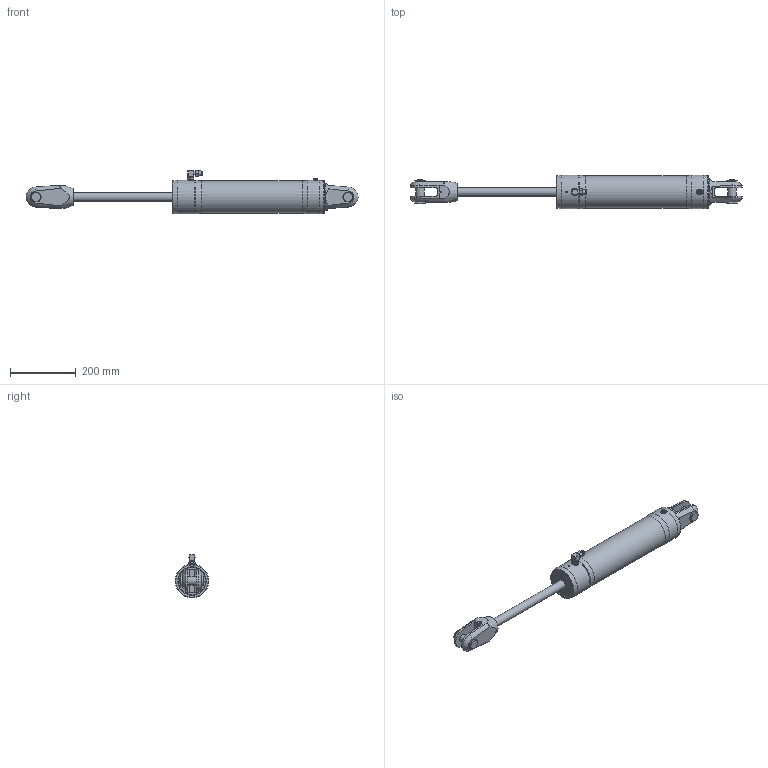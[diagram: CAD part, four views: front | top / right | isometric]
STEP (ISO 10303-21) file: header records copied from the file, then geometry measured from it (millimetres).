
FILE_DESCRIPTION(/* description */ (''),/* implementation_level */ '2;1');
FILE_NAME(/* name */ 'Q:\AA BRAND HYDRAULICS\HYDRAULICS FAMILY DIRECTORY\HYDRAULICS\CYLINDERS\RAMS\ALUMINIUM - STANDARD SINGLE ACTING (-0006 To -0260)\RSA-0040-S0300-NP-71\RSA-0040-S0300-NP-71 (Open).stp',/* time_stamp */ '2017-11-30T12:07:08+00:00',/* author */ ('Lorena'),/* organization */ (''),/* preprocessor_version */ 'ST-DEVELOPER v16.13',/* originating_system */ 'Autodesk Inventor 2018',/* authorisation */ '');
FILE_SCHEMA (('AUTOMOTIVE_DESIGN { 1 0 10303 214 3 1 1 }'));
Products named in the file (1): RSA-0040-S0300-NP-71 (Open)
Bounding box: 1012.74 x 102.2 x 133 mm (x, y, z)
Volume: 4425766.6 mm3; surface area: 272389.8 mm2
Topology: 1 solids, 4 shells, 1613 faces, 4273 edges, 2818 vertices
Faces by surface type: plane 894, bspline 573, cylinder 81, cone 56, torus 5, sphere 4
Full cylindrical faces by diameter (mm): 4 x1, 4.134 x1, 4.2 x2, 5 x1, 5.1 x1, 5.9 x1, 7 x1, 8 x2, 9 x3, 10 x2, 11.157 x1, 11.8 x1, 12 x1, 12.157 x1, 12.77 x1, 13 x1, 13.157 x2, 14.5 x2, 16 x2, 18.3 x2, 22 x1, 25.4 x2, 26 x1, 31.75 x2, 62 x1, 99.2 x1, 102.2 x4
Entity records: 56375 total; most frequent: CARTESIAN_POINT 19114, ORIENTED_EDGE 8304, DIRECTION 5285, EDGE_CURVE 4152, VERTEX_POINT 2783, LINE 2681, VECTOR 2681, EDGE_LOOP 1854
